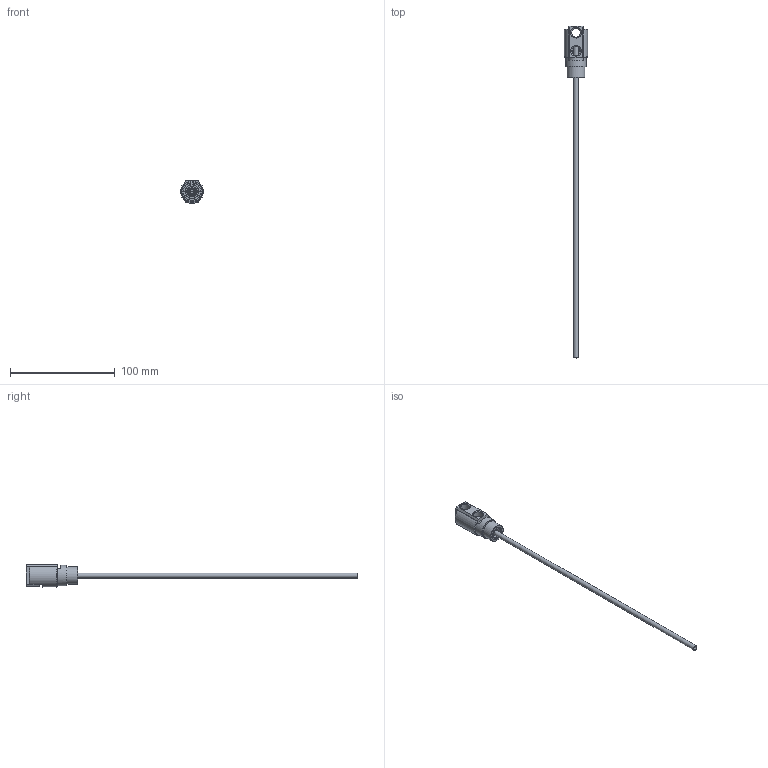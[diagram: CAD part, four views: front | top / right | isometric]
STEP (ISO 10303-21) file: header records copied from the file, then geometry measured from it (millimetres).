
FILE_DESCRIPTION(/* description */ (''),/* implementation_level */ '2;1');
FILE_NAME(/* name */ 'C:/Users/drich/Desktop/SC186N.step',/* time_stamp */ '2020-12-14T10:27:58-06:00',/* author */ (''),/* organization */ (''),/* preprocessor_version */ 'ST-DEVELOPER v18.1',/* originating_system */ 'Autodesk Translation Framework v9.7.1.1290',/* authorisation */ '');
FILE_SCHEMA (('AUTOMOTIVE_DESIGN { 1 0 10303 214 3 1 1 }'));
Length unit declared in the file: inch
Products named in the file (5): SC186N; SC186H HEAD; SC186H Sleeve; seal; HF187T-12
Assembly tree (4 placements, depth 3):
  SC186N
    SC186H HEAD
      SC186H Sleeve
      seal
    HF187T-12
Bounding box: 22.2 x 317.17 x 21.41 mm (x, y, z)
Volume: 13090.5 mm3; surface area: 18055 mm2
Topology: 4 solids, 4 shells, 82 faces, 198 edges, 128 vertices
Faces by surface type: plane 37, cylinder 22, cone 14, torus 9
Full cylindrical faces by diameter (mm): 4.242 x1, 4.75 x1, 5.118 x1, 6.243 x1, 6.401 x1, 6.731 x1, 7.214 x1, 8.707 x3, 9.5 x2, 12.7 x1, 12.954 x1, 15.165 x1, 17.018 x1, 19.558 x1
Entity records: 2689 total; most frequent: CARTESIAN_POINT 614, DIRECTION 428, ORIENTED_EDGE 396, EDGE_CURVE 198, AXIS2_PLACEMENT_3D 174, VERTEX_POINT 128, EDGE_LOOP 98, CIRCLE 83
